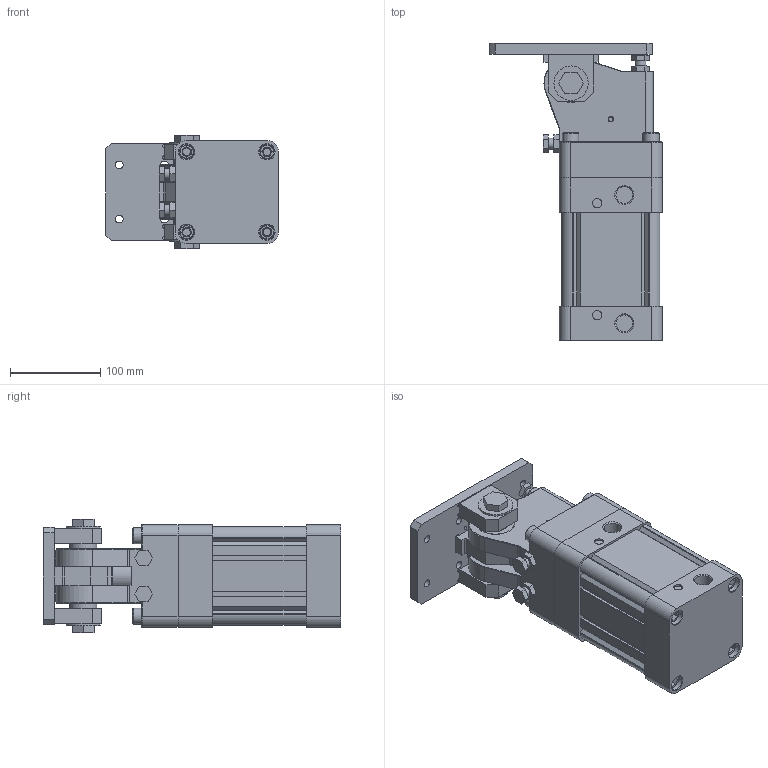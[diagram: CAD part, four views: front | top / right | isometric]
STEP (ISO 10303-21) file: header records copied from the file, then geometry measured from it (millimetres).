
FILE_DESCRIPTION(/* description */ (''),/* implementation_level */ '2;1');
FILE_NAME(/* name */ 'DHR2C-100M65PPV-ZG-ZB.stp',/* time_stamp */ '2025-06-12T08:27:07+08:00',/* author */ (''),/* organization */ (''),/* preprocessor_version */ 'ST-DEVELOPER v15',/* originating_system */ 'SIEMENS PLM Software NX 10.0',/* authorisation */ '');
FILE_SCHEMA (('AP203_CONFIGURATION_CONTROLLED_3D_DESIGN_OF_MECHANICAL_PARTS_AND_ASSEMBLIES_MIM_LF { 1 0 10303 403 2 1 2}'));
Length unit declared in the file: millimetre
Products named in the file (1): Admi31B8C635pvtk
Bounding box: 191 x 329 x 126 mm (x, y, z)
Volume: 3471276.9 mm3; surface area: 434761.2 mm2
Topology: 34 solids, 34 shells, 861 faces, 2042 edges, 1319 vertices
Faces by surface type: plane 491, cylinder 261, cone 99, torus 6, bspline 4
Full cylindrical faces by diameter (mm): 3.3 x2, 4.2 x4, 5 x7, 6.4 x5, 6.5 x4, 6.75 x4, 6.8 x2, 8 x6, 8.1 x2, 8.5 x18, 10 x6, 10.5 x4, 11 x16, 12 x8, 13 x6, 14 x6, 16 x4, 17 x4, 18 x4, 18.6 x2, 20 x8, 30 x4, 31 x2, 32 x1, 34 x1, 38 x2, 42 x4, 55 x1, 58 x1
Entity records: 23736 total; most frequent: CARTESIAN_POINT 4401, DIRECTION 4098, ORIENTED_EDGE 3492, EDGE_CURVE 1746, AXIS2_PLACEMENT_3D 1520, EDGE_LOOP 1265, VERTEX_POINT 1257, LINE 1058
